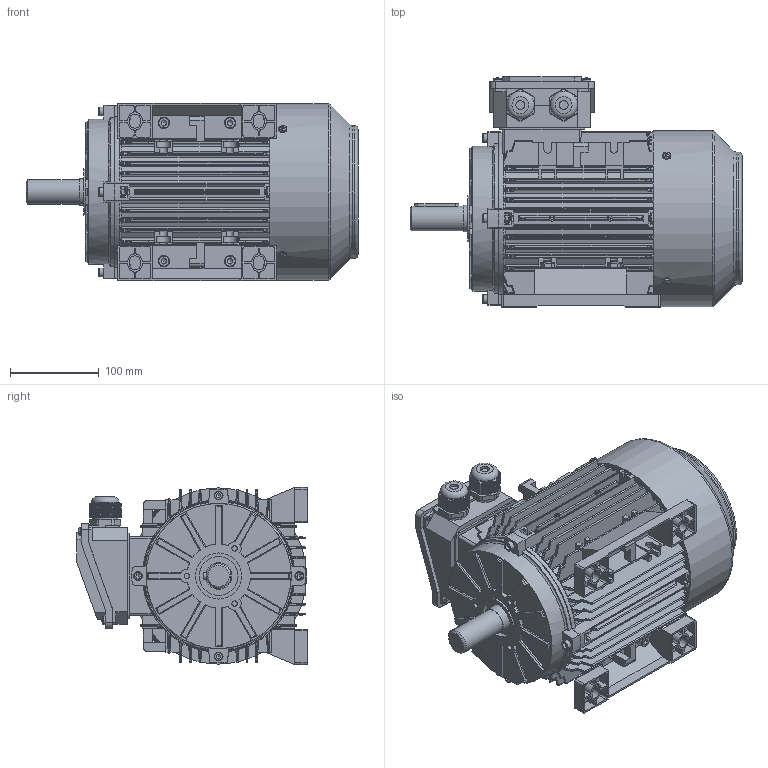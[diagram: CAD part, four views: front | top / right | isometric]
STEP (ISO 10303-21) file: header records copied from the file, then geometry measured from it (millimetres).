
FILE_DESCRIPTION(/* description */ ('02-IP55-Aluminium-IE1_IE2_IE3-100-B3-top'),/* implementation_level */ '2;1');
FILE_NAME(/* name */ 'H:\BESTANDEN\121 - OMEC\1603 - TA serie\1603 - Gereed\02-IP55-Aluminium-IE1_IE2_IE3-100-B3-top.stp',/* time_stamp */ '2016-06-06T12:25:04+02:00',/* author */ ('Freek'),/* organization */ (''),/* preprocessor_version */ 'ST-DEVELOPER v15.6',/* originating_system */ 'Autodesk Inventor 2015',/* authorisation */ '');
FILE_SCHEMA (('AUTOMOTIVE_DESIGN { 1 0 10303 214 3 1 1 }'));
Products named in the file (1): 1603-047
Bounding box: 375 x 260.1 x 200 mm (x, y, z)
Volume: 8606046.5 mm3; surface area: 737703.3 mm2
Topology: 2 solids, 12 shells, 3628 faces, 9488 edges, 6052 vertices
Faces by surface type: plane 2028, cylinder 741, bspline 387, cone 252, torus 160, sphere 60
Full cylindrical faces by diameter (mm): 2 x1, 3 x4, 4 x1, 4.567 x5, 5 x14, 6 x14, 6.5 x4, 7 x4, 8 x8, 8.5 x8, 10 x7, 13 x4, 23 x2, 28 x3, 30 x1, 31 x2, 44 x1, 52 x1, 150 x1, 164 x1, 199 x1
Entity records: 126740 total; most frequent: CARTESIAN_POINT 38213, ORIENTED_EDGE 18488, DIRECTION 16245, EDGE_CURVE 9236, VERTEX_POINT 5987, AXIS2_PLACEMENT_3D 5497, LINE 5251, VECTOR 5251
